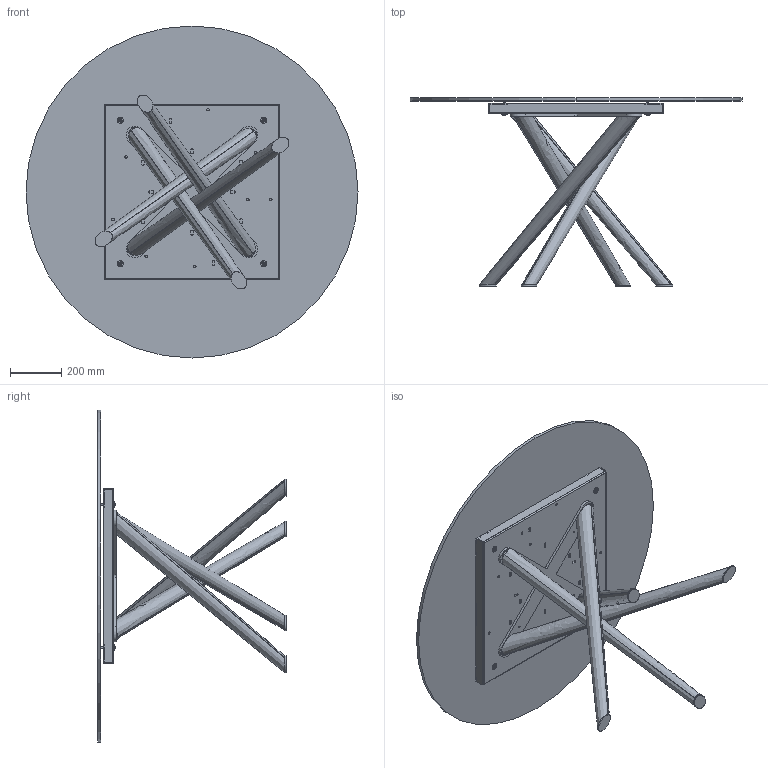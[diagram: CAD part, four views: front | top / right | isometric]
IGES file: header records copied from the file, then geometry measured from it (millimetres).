
Start section: SolidWorks IGES file using analytic representation for surfaces
Global section: file name: Y:\eforma\TECNICO\SOLIDWORKS\E-FORMA\1-TAVOLI\BALY\02 parts\BA05G.IGS; native system: SolidWorks 2022; preprocessor: SolidWorks 2022; author: eforma.tech; date: 240808.084102; units: millimetre
Bounding box: 1300 x 737 x 1300 mm (x, y, z)
Volume: 20605748.5 mm3; surface area: 5516530.8 mm2
Topology: 23 solids, 23 shells, 685 faces, 1761 edges, 1118 vertices
Faces by surface type: revolution 367, plane 310, bspline 8
